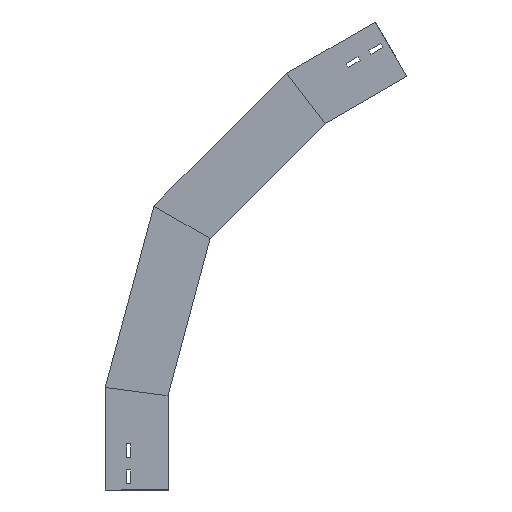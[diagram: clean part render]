
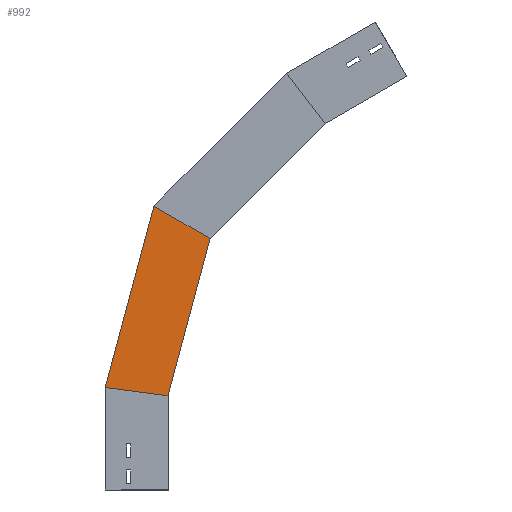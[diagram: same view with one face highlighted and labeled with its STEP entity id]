
A CAD part, left-side view. The second image highlights one B-rep face of the part: STEP entity #992.
In plain terms, the highlighted planar face has unit normal (-1, 0, 0) as drawn and (1, 0, 0) by its records, which use the part's own axes.
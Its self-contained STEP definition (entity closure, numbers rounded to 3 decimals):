
#137 = DIRECTION ( 'NONE',  ( 0., 0., -1. ) ) ;
#184 = EDGE_LOOP ( 'NONE', ( #952, #831, #423, #192 ) ) ;
#192 = ORIENTED_EDGE ( 'NONE', *, *, #1096, .F. ) ;
#223 = AXIS2_PLACEMENT_3D ( 'NONE', #1165, #809, #137 ) ;
#245 = LINE ( 'NONE', #672, #1351 ) ;
#267 = PLANE ( 'NONE',  #223 ) ;
#277 = FACE_OUTER_BOUND ( 'NONE', #184, .T. ) ;
#335 = VERTEX_POINT ( 'NONE', #792 ) ;
#347 = VERTEX_POINT ( 'NONE', #1051 ) ;
#406 = EDGE_CURVE ( 'NONE', #1258, #347, #1100, .T. ) ;
#423 = ORIENTED_EDGE ( 'NONE', *, *, #406, .F. ) ;
#537 = VERTEX_POINT ( 'NONE', #636 ) ;
#636 = CARTESIAN_POINT ( 'NONE',  ( 0., 22.623, 451.939 ) ) ;
#672 = CARTESIAN_POINT ( 'NONE',  ( 0., -273.105, 553.433 ) ) ;
#784 = DIRECTION ( 'NONE',  ( 0., -0.707, 0.707 ) ) ;
#792 = CARTESIAN_POINT ( 'NONE',  ( 0., -188.773, 663.335 ) ) ;
#809 = DIRECTION ( 'NONE',  ( 1., 0., 0. ) ) ;
#831 = ORIENTED_EDGE ( 'NONE', *, *, #1417, .T. ) ;
#838 = CARTESIAN_POINT ( 'NONE',  ( 0., -46.122, 379.263 ) ) ;
#939 = CARTESIAN_POINT ( 'NONE',  ( 0., 24.589, 449.973 ) ) ;
#952 = ORIENTED_EDGE ( 'NONE', *, *, #1217, .T. ) ;
#992 = ADVANCED_FACE ( 'NONE', ( #277 ), #267, .T. ) ;
#1033 = LINE ( 'NONE', #939, #1278 ) ;
#1051 = CARTESIAN_POINT ( 'NONE',  ( 0., -250.175, 583.315 ) ) ;
#1071 = VECTOR ( 'NONE', #1503, 1000. ) ;
#1096 = EDGE_CURVE ( 'NONE', #537, #1258, #1139, .T. ) ;
#1100 = LINE ( 'NONE', #838, #1562 ) ;
#1139 = LINE ( 'NONE', #1231, #1071 ) ;
#1165 = CARTESIAN_POINT ( 'NONE',  ( 0., -46.122, 379.263 ) ) ;
#1217 = EDGE_CURVE ( 'NONE', #537, #335, #1033, .T. ) ;
#1231 = CARTESIAN_POINT ( 'NONE',  ( 0., -128.356, 364.771 ) ) ;
#1258 = VERTEX_POINT ( 'NONE', #1628 ) ;
#1278 = VECTOR ( 'NONE', #784, 1000. ) ;
#1339 = DIRECTION ( 'NONE',  ( 0., -0.707, 0.707 ) ) ;
#1351 = VECTOR ( 'NONE', #1421, 1000. ) ;
#1417 = EDGE_CURVE ( 'NONE', #335, #347, #245, .T. ) ;
#1421 = DIRECTION ( 'NONE',  ( 0., -0.609, -0.793 ) ) ;
#1503 = DIRECTION ( 'NONE',  ( 0., -0.866, -0.5 ) ) ;
#1562 = VECTOR ( 'NONE', #1339, 1000. ) ;
#1628 = CARTESIAN_POINT ( 'NONE',  ( 0., -67.034, 400.175 ) ) ;
